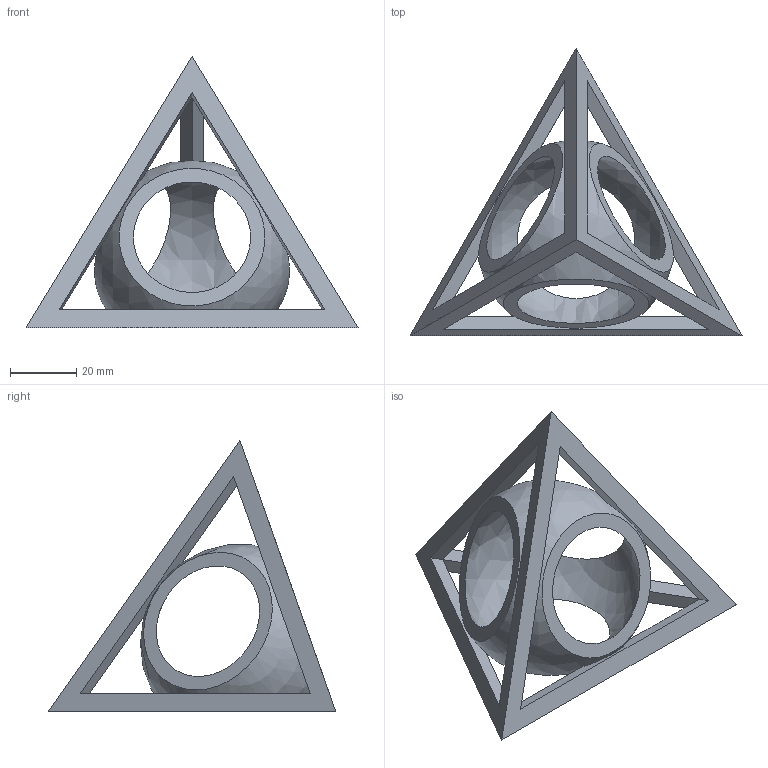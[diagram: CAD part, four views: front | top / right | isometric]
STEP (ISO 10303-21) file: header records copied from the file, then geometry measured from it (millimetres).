
FILE_DESCRIPTION(('STEP AP203'), '1');
FILE_NAME('歞譇擯魡', '', ('UNSPECIFIED'), ('UNSPECIFIED'), 'ASCON STEP Converter 1.6', 'ASCON Math Kernel', '');
FILE_SCHEMA(('CONFIG_CONTROL_DESIGN'));
Length unit declared in the file: millimetre
Assembly tree (1 placements, depth 2):
  (unnamed)
    (unnamed)
Bounding box: 100 x 86.6 x 81.65 mm (x, y, z)
Volume: 25207.4 mm3; surface area: 20237.8 mm2
Topology: 1 solids, 1 shells, 22 faces, 64 edges, 42 vertices
Faces by surface type: plane 20, sphere 2
Entity records: 1040 total; most frequent: DIRECTION 130, CARTESIAN_POINT 128, ORIENTED_EDGE 124, EDGE_CURVE 62, AXIS2_PLACEMENT_3D 44, EDGE_LOOP 42, LINE 42, VECTOR 42
